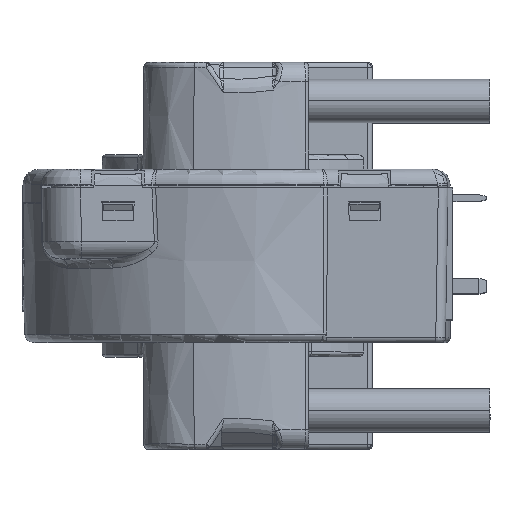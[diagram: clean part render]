
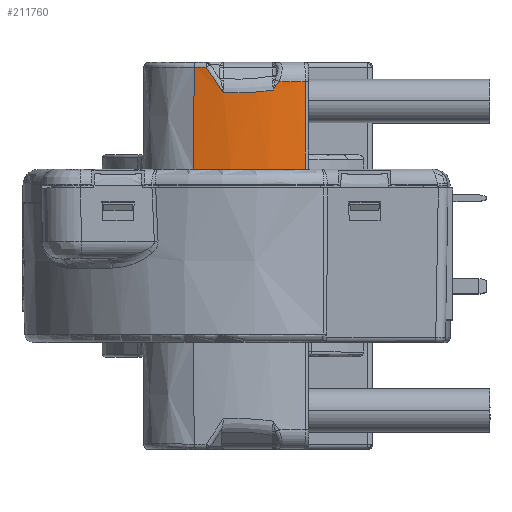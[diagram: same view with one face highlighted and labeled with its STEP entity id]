
A CAD part, top view. The second image highlights one B-rep face of the part: STEP entity #211760.
In plain terms, the highlighted cylindrical face has radius 22.5 mm (diameter 45 mm), a partial arc.
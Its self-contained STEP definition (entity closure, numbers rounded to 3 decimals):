
#190320=CARTESIAN_POINT('',(6.454,-9.87,
22.908));
#190330=VERTEX_POINT('',#190320);
#190360=CARTESIAN_POINT('',(1.899,-9.87,
0.875));
#190370=DIRECTION('',(0.,-1.,0.));
#190380=DIRECTION('',(0.,0.,-1.));
#190390=AXIS2_PLACEMENT_3D('',#190360,#190370,#190380);
#190400=CIRCLE('',#190390,22.5);
#190410=CARTESIAN_POINT('',(-5.158,-9.87,
22.239));
#190420=VERTEX_POINT('',#190410);
#190430=EDGE_CURVE('',#190330,#190420,#190400,.T.);
#192170=CARTESIAN_POINT('',(-5.158,-20.92,
22.239));
#192180=DIRECTION('',(0.,-1.,0.));
#192190=VECTOR('',#192180,1.);
#192200=LINE('',#192170,#192190);
#192210=CARTESIAN_POINT('',(-5.158,-18.92,
22.239));
#192220=VERTEX_POINT('',#192210);
#192230=EDGE_CURVE('',#190420,#192220,#192200,.T.);
#192410=CARTESIAN_POINT('',(1.899,-18.92,
0.875));
#192420=DIRECTION('',(0.,-1.,0.));
#192430=DIRECTION('',(-1.,0.,0.));
#192440=AXIS2_PLACEMENT_3D('',#192410,#192420,#192430);
#192450=CIRCLE('',#192440,22.5);
#192460=CARTESIAN_POINT('',(-2.4,-18.92,
22.96));
#192470=VERTEX_POINT('',#192460);
#192480=EDGE_CURVE('',#192470,#192220,#192450,.T.);
#194390=CARTESIAN_POINT('',(6.325,-20.42,
22.935));
#194400=VERTEX_POINT('',#194390);
#194840=CARTESIAN_POINT('',(1.899,-20.42,
0.875));
#194850=DIRECTION('',(0.,-1.,0.));
#194860=DIRECTION('',(-1.,0.,0.));
#194870=AXIS2_PLACEMENT_3D('',#194840,#194850,#194860);
#194880=CIRCLE('',#194870,22.5);
#194890=CARTESIAN_POINT('',(5.102,-20.42,
23.145));
#194900=VERTEX_POINT('',#194890);
#194910=EDGE_CURVE('',#194400,#194900,#194880,.T.);
#206060=CARTESIAN_POINT('',(-2.4,-18.92,
22.96));
#206070=CARTESIAN_POINT('',(-2.399,-18.92,
22.96));
#206080=CARTESIAN_POINT('',(-2.399,-18.919,
22.96));
#206090=CARTESIAN_POINT('',(-2.306,-18.773,
22.978));
#206100=CARTESIAN_POINT('',(-2.213,-18.627,
22.996));
#206110=CARTESIAN_POINT('',(-2.074,-18.41,
23.021));
#206120=CARTESIAN_POINT('',(-2.028,-18.339,
23.029));
#206130=CARTESIAN_POINT('',(-1.844,-18.053,
23.061));
#206140=CARTESIAN_POINT('',(-1.706,-17.839,
23.084));
#206150=CARTESIAN_POINT('',(-1.566,-17.625,
23.106));
#206160=B_SPLINE_CURVE_WITH_KNOTS('',3,(#206060,#206070,#206080,#206090,
#206100,#206110,#206120,#206130,#206140,#206150),.UNSPECIFIED.,.F.,.F.,(
4,2,2,2,4),(0.,0.001,0.522,0.776,
1.541),.UNSPECIFIED.);
#206170=CARTESIAN_POINT('',(-1.837,-18.043,
23.062));
#206180=VERTEX_POINT('',#206170);
#206190=EDGE_CURVE('',#192470,#206180,#206160,.T.);
#211070=CARTESIAN_POINT('',(1.899,-20.92,
0.875));
#211080=DIRECTION('',(0.,-1.,0.));
#211090=DIRECTION('',(0.,0.,-1.));
#211100=AXIS2_PLACEMENT_3D('',#211070,#211080,#211090);
#211110=CYLINDRICAL_SURFACE('',#211100,22.5);
#211120=CARTESIAN_POINT('',(4.922,-17.944,
23.171));
#211130=CARTESIAN_POINT('',(4.828,-17.933,
23.183));
#211140=CARTESIAN_POINT('',(4.735,-17.922,
23.195));
#211150=CARTESIAN_POINT('',(4.317,-17.875,
23.247));
#211160=CARTESIAN_POINT('',(3.991,-17.845,
23.279));
#211170=CARTESIAN_POINT('',(3.501,-17.81,
23.318));
#211180=CARTESIAN_POINT('',(3.337,-17.8,
23.329));
#211190=CARTESIAN_POINT('',(3.009,-17.783,
23.348));
#211200=CARTESIAN_POINT('',(2.845,-17.776,
23.355));
#211210=CARTESIAN_POINT('',(2.517,-17.766,
23.367));
#211220=CARTESIAN_POINT('',(2.352,-17.762,
23.371));
#211230=CARTESIAN_POINT('',(2.023,-17.758,
23.375));
#211240=CARTESIAN_POINT('',(1.859,-17.758,
23.375));
#211250=CARTESIAN_POINT('',(1.53,-17.761,
23.372));
#211260=CARTESIAN_POINT('',(1.366,-17.764,
23.369));
#211270=CARTESIAN_POINT('',(1.037,-17.773,
23.359));
#211280=CARTESIAN_POINT('',(0.873,-17.779,
23.352));
#211290=CARTESIAN_POINT('',(0.545,-17.795,
23.334));
#211300=CARTESIAN_POINT('',(0.382,-17.805,
23.324));
#211310=CARTESIAN_POINT('',(0.056,-17.827,
23.3));
#211320=CARTESIAN_POINT('',(-0.107,-17.839,
23.286));
#211330=CARTESIAN_POINT('',(-0.594,-17.882,
23.238));
#211340=CARTESIAN_POINT('',(-0.917,-17.917,
23.2));
#211350=CARTESIAN_POINT('',(-1.56,-18.,
23.109));
#211360=CARTESIAN_POINT('',(-1.88,-18.047,
23.057));
#211370=CARTESIAN_POINT('',(-2.514,-18.154,
22.94));
#211380=CARTESIAN_POINT('',(-2.829,-18.214,
22.875));
#211390=CARTESIAN_POINT('',(-3.205,-18.293,
22.788));
#211400=CARTESIAN_POINT('',(-3.27,-18.307,
22.773));
#211410=CARTESIAN_POINT('',(-3.334,-18.321,
22.758));
#211420=B_SPLINE_CURVE_WITH_KNOTS('',3,(#211120,#211130,#211140,#211150,
#211160,#211170,#211180,#211190,#211200,#211210,#211220,#211230,#211240,
#211250,#211260,#211270,#211280,#211290,#211300,#211310,#211320,#211330,
#211340,#211350,#211360,#211370,#211380,#211390,#211400,#211410),
.UNSPECIFIED.,.F.,.F.,(4,2,2,2,2,2,2,2,2,2,2,2,2,2,4),(11.12,
11.392,12.335,12.806,13.277,
13.748,14.219,14.691,15.162,
15.631,16.101,17.04,17.978,
18.916,19.11),.UNSPECIFIED.);
#211430=CARTESIAN_POINT('',(3.325,-17.8,
23.329));
#211440=VERTEX_POINT('',#211430);
#211450=EDGE_CURVE('',#211440,#206180,#211420,.T.);
#211460=ORIENTED_EDGE('',*,*,#211450,.F.);
#211470=ORIENTED_EDGE('',*,*,#206190,.T.);
#211480=ORIENTED_EDGE('',*,*,#192480,.F.);
#211490=ORIENTED_EDGE('',*,*,#192230,.T.);
#211500=ORIENTED_EDGE('',*,*,#190430,.T.);
#211510=CARTESIAN_POINT('',(6.239,-27.419,
22.952));
#211520=CARTESIAN_POINT('',(6.288,-23.399,
22.942));
#211530=CARTESIAN_POINT('',(6.338,-19.378,
22.932));
#211540=CARTESIAN_POINT('',(6.436,-11.362,
22.912));
#211550=CARTESIAN_POINT('',(6.485,-7.366,
22.902));
#211560=CARTESIAN_POINT('',(6.534,-3.37,
22.892));
#211570=B_SPLINE_CURVE_WITH_KNOTS('',3,(#211510,#211520,#211530,#211540,
#211550,#211560),.UNSPECIFIED.,.F.,.F.,(4,2,4),(52.522,
64.585,76.573),.UNSPECIFIED.);
#211580=EDGE_CURVE('',#194400,#190330,#211570,.T.);
#211590=ORIENTED_EDGE('',*,*,#211580,.T.);
#211600=ORIENTED_EDGE('',*,*,#194910,.F.);
#211610=CARTESIAN_POINT('',(5.102,-20.42,
23.145));
#211620=CARTESIAN_POINT('',(5.044,-20.333,
23.154));
#211630=CARTESIAN_POINT('',(4.987,-20.246,
23.162));
#211640=CARTESIAN_POINT('',(4.706,-19.823,
23.2));
#211650=CARTESIAN_POINT('',(4.481,-19.488,
23.227));
#211660=CARTESIAN_POINT('',(4.023,-18.811,
23.275));
#211670=CARTESIAN_POINT('',(3.789,-18.47,
23.296));
#211680=CARTESIAN_POINT('',(3.383,-17.883,
23.326));
#211690=CARTESIAN_POINT('',(3.211,-17.636,
23.337));
#211700=CARTESIAN_POINT('',(3.038,-17.39,
23.346));
#211710=B_SPLINE_CURVE_WITH_KNOTS('',3,(#211610,#211620,#211630,#211640,
#211650,#211660,#211670,#211680,#211690,#211700),.UNSPECIFIED.,.F.,.F.,(
4,2,2,2,4),(17.831,18.143,19.353,
20.59,21.49),.UNSPECIFIED.);
#211720=EDGE_CURVE('',#194900,#211440,#211710,.T.);
#211730=ORIENTED_EDGE('',*,*,#211720,.F.);
#211740=EDGE_LOOP('',(#211730,#211600,#211590,#211500,#211490,#211480,
#211470,#211460));
#211750=FACE_OUTER_BOUND('',#211740,.T.);
#211760=ADVANCED_FACE('',(#211750),#211110,.T.);
